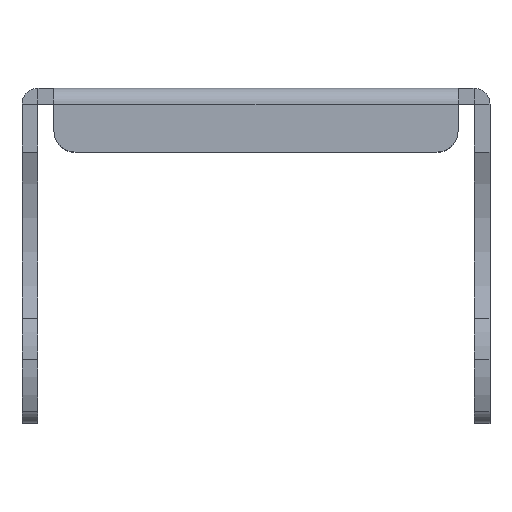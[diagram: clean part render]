
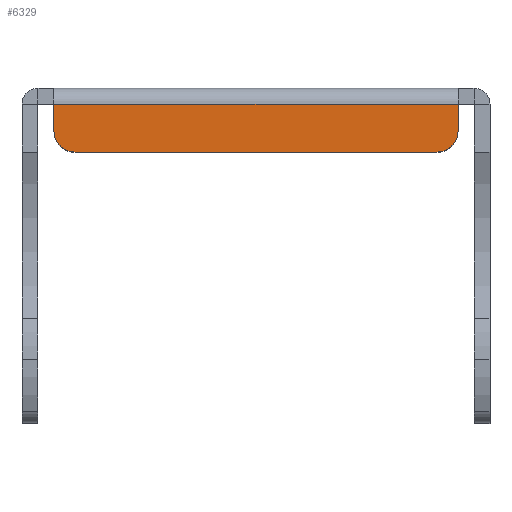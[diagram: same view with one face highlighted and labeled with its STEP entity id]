
A CAD part, top view. The second image highlights one B-rep face of the part: STEP entity #6329.
In plain terms, the highlighted planar face has unit normal (0, 0, 1).
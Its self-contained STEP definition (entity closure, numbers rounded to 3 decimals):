
#2002=CARTESIAN_POINT('',(17.,21.5,12.5));
#2003=DIRECTION('',(0.,0.,1.));
#2004=DIRECTION('',(0.,-1.,0.));
#2005=AXIS2_PLACEMENT_3D('',#2002,#2003,#2004);
#2007=DIRECTION('',(1.,0.,0.));
#2008=VECTOR('',#2007,34.);
#2009=CARTESIAN_POINT('',(-17.,19.5,12.5));
#2010=LINE('',#2009,#2008);
#2011=CARTESIAN_POINT('',(-17.,21.5,12.5));
#2012=DIRECTION('',(0.,0.,1.));
#2013=DIRECTION('',(-1.,0.,0.));
#2014=AXIS2_PLACEMENT_3D('',#2011,#2012,#2013);
#2016=DIRECTION('',(0.,-1.,0.));
#2017=VECTOR('',#2016,2.5);
#2018=CARTESIAN_POINT('',(-19.,24.,12.5));
#2019=LINE('',#2018,#2017);
#2020=DIRECTION('',(-1.,0.,0.));
#2021=VECTOR('',#2020,38.);
#2022=CARTESIAN_POINT('',(19.,24.,12.5));
#2023=LINE('',#2022,#2021);
#2024=DIRECTION('',(0.,1.,0.));
#2025=VECTOR('',#2024,2.5);
#2026=CARTESIAN_POINT('',(19.,21.5,12.5));
#2027=LINE('',#2026,#2025);
#3288=CARTESIAN_POINT('',(19.,24.,12.5));
#3289=CARTESIAN_POINT('',(-19.,24.,12.5));
#3290=VERTEX_POINT('',#3288);
#3291=VERTEX_POINT('',#3289);
#3304=CARTESIAN_POINT('',(19.,21.5,12.5));
#3306=VERTEX_POINT('',#3304);
#3308=CARTESIAN_POINT('',(-19.,21.5,12.5));
#3310=VERTEX_POINT('',#3308);
#3648=CARTESIAN_POINT('',(17.,19.5,12.5));
#3649=VERTEX_POINT('',#3648);
#3650=CARTESIAN_POINT('',(-17.,19.5,12.5));
#3651=VERTEX_POINT('',#3650);
#6315=CARTESIAN_POINT('',(-10.758,24.,12.5));
#6316=DIRECTION('',(0.,0.,1.));
#6317=DIRECTION('',(1.,0.,0.));
#6318=AXIS2_PLACEMENT_3D('',#6315,#6316,#6317);
#6319=PLANE('',#6318);
#6320=ORIENTED_EDGE('',*,*,#6248,.F.);
#6321=ORIENTED_EDGE('',*,*,#6265,.F.);
#6322=ORIENTED_EDGE('',*,*,#6310,.F.);
#6323=ORIENTED_EDGE('',*,*,#6297,.F.);
#6325=ORIENTED_EDGE('',*,*,#6324,.F.);
#6326=ORIENTED_EDGE('',*,*,#6233,.F.);
#6327=EDGE_LOOP('',(#6320,#6321,#6322,#6323,#6325,#6326));
#6328=FACE_OUTER_BOUND('',#6327,.F.);
#6329=ADVANCED_FACE('',(#6328),#6319,.T.);
#2006=CIRCLE('',#2005,2.);
#2015=CIRCLE('',#2014,2.);
#6233=EDGE_CURVE('',#3306,#3290,#2027,.T.);
#6248=EDGE_CURVE('',#3649,#3306,#2006,.T.);
#6265=EDGE_CURVE('',#3651,#3649,#2010,.T.);
#6297=EDGE_CURVE('',#3291,#3310,#2019,.T.);
#6310=EDGE_CURVE('',#3310,#3651,#2015,.T.);
#6324=EDGE_CURVE('',#3290,#3291,#2023,.T.);
